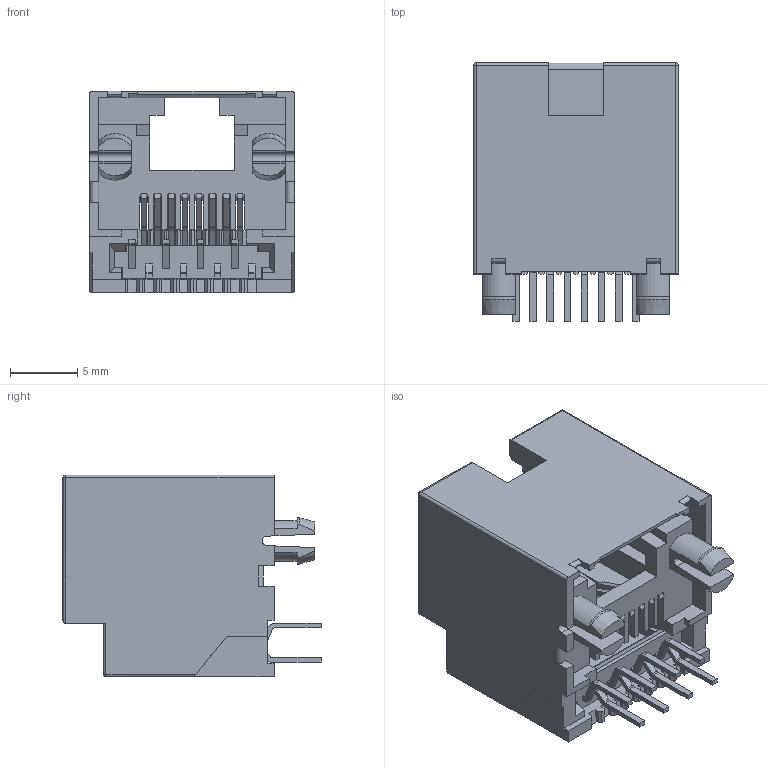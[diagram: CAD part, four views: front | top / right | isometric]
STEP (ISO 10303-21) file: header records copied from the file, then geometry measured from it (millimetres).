
FILE_DESCRIPTION((''),'2;1');
FILE_NAME('DGKYD52F1188IWA5DB4K078','2023-08-01T18:52:26',('Administrator'),(''),'CREO PARAMETRIC BY PTC INC, 2019010','CREO PARAMETRIC BY PTC INC, 2019010','');
FILE_SCHEMA(('CONFIG_CONTROL_DESIGN'));
Length unit declared in the file: millimetre
Products named in the file (1): DGKYD52F1188IWA5DB4K078
Bounding box: 15.25 x 19.19 x 15 mm (x, y, z)
Volume: 1319 mm3; surface area: 2812 mm2
Topology: 1 solids, 1 shells, 563 faces, 1705 edges, 1130 vertices
Faces by surface type: plane 457, cylinder 98, sphere 4, cone 4
Entity records: 19062 total; most frequent: CARTESIAN_POINT 3537, ORIENTED_EDGE 3402, DIRECTION 3019, EDGE_CURVE 1701, VECTOR 1457, LINE 1457, VERTEX_POINT 1130, AXIS2_PLACEMENT_3D 781
